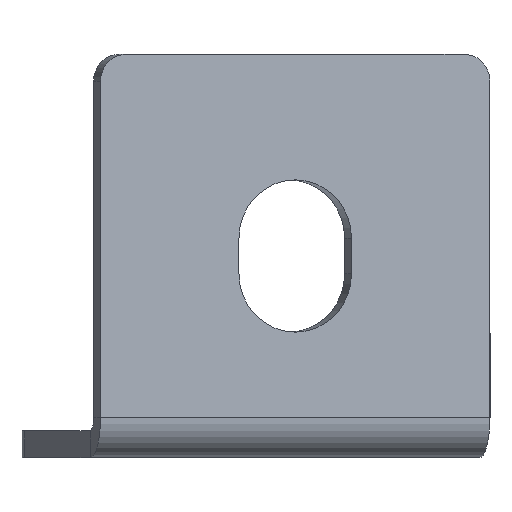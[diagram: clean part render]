
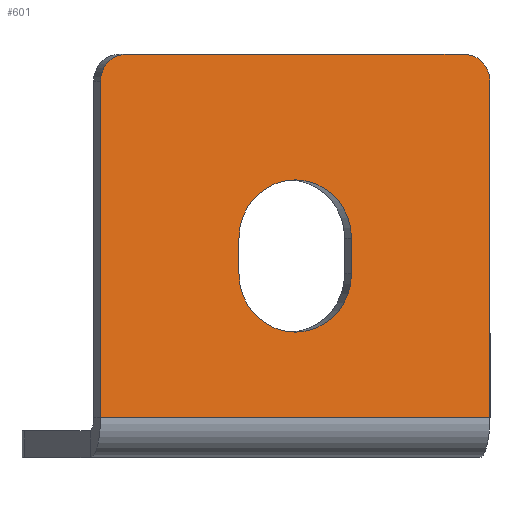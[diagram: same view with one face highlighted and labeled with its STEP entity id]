
A CAD part, left-side view. The second image highlights one B-rep face of the part: STEP entity #601.
In plain terms, the highlighted planar face has unit normal (-0.966, -0.259, 0).
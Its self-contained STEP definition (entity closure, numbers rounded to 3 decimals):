
#3 = DIRECTION ( 'NONE',  ( 0., 0., -1. ) ) ;
#35 = CARTESIAN_POINT ( 'NONE',  ( -20.43, -13.238, 45. ) ) ;
#41 = CARTESIAN_POINT ( 'NONE',  ( -20.43, -13.238, 42. ) ) ;
#76 = LINE ( 'NONE', #370, #786 ) ;
#93 = EDGE_CURVE ( 'NONE', #329, #889, #910, .T. ) ;
#118 = FACE_OUTER_BOUND ( 'NONE', #998, .T. ) ;
#119 = CARTESIAN_POINT ( 'NONE',  ( -21.206, -10.341, 45. ) ) ;
#124 = DIRECTION ( 'NONE',  ( -0.966, -0.259, 0. ) ) ;
#127 = EDGE_CURVE ( 'NONE', #213, #1108, #372, .T. ) ;
#130 = CIRCLE ( 'NONE', #1059, 3. ) ;
#142 = CARTESIAN_POINT ( 'NONE',  ( -31.3, 27.33, 42. ) ) ;
#156 = VECTOR ( 'NONE', #3, 1000. ) ;
#157 = EDGE_LOOP ( 'NONE', ( #792, #356, #636, #1159 ) ) ;
#162 = EDGE_CURVE ( 'NONE', #1108, #760, #306, .T. ) ;
#163 = LINE ( 'NONE', #1012, #868 ) ;
#166 = VERTEX_POINT ( 'NONE', #212 ) ;
#192 = EDGE_CURVE ( 'NONE', #225, #166, #1033, .T. ) ;
#195 = AXIS2_PLACEMENT_3D ( 'NONE', #850, #526, #1151 ) ;
#212 = CARTESIAN_POINT ( 'NONE',  ( -20.43, -13.238, 4.5 ) ) ;
#213 = VERTEX_POINT ( 'NONE', #931 ) ;
#225 = VERTEX_POINT ( 'NONE', #41 ) ;
#226 = ORIENTED_EDGE ( 'NONE', *, *, #192, .F. ) ;
#234 = DIRECTION ( 'NONE',  ( 0., 0., -1. ) ) ;
#237 = DIRECTION ( 'NONE',  ( 0.259, -0.966, 0. ) ) ;
#243 = CARTESIAN_POINT ( 'NONE',  ( -24.571, 2.216, 24.5 ) ) ;
#273 = AXIS2_PLACEMENT_3D ( 'NONE', #891, #124, #740 ) ;
#277 = EDGE_CURVE ( 'NONE', #410, #213, #899, .T. ) ;
#280 = VERTEX_POINT ( 'NONE', #119 ) ;
#284 = ORIENTED_EDGE ( 'NONE', *, *, #290, .F. ) ;
#290 = EDGE_CURVE ( 'NONE', #280, #225, #653, .T. ) ;
#306 = CIRCLE ( 'NONE', #994, 6.5 ) ;
#317 = CARTESIAN_POINT ( 'NONE',  ( -26.253, 8.495, 20.5 ) ) ;
#329 = VERTEX_POINT ( 'NONE', #404 ) ;
#344 = CARTESIAN_POINT ( 'NONE',  ( -27.936, 14.773, 45. ) ) ;
#356 = ORIENTED_EDGE ( 'NONE', *, *, #277, .F. ) ;
#370 = CARTESIAN_POINT ( 'NONE',  ( -32.077, 30.228, 4.5 ) ) ;
#372 = LINE ( 'NONE', #344, #566 ) ;
#391 = AXIS2_PLACEMENT_3D ( 'NONE', #479, #1103, #571 ) ;
#404 = CARTESIAN_POINT ( 'NONE',  ( -32.077, 30.228, 42. ) ) ;
#407 = DIRECTION ( 'NONE',  ( 0., 0., 1. ) ) ;
#410 = VERTEX_POINT ( 'NONE', #243 ) ;
#462 = ORIENTED_EDGE ( 'NONE', *, *, #682, .F. ) ;
#479 = CARTESIAN_POINT ( 'NONE',  ( -21.206, -10.341, 42. ) ) ;
#482 = VERTEX_POINT ( 'NONE', #596 ) ;
#489 = DIRECTION ( 'NONE',  ( -0.966, -0.259, 0. ) ) ;
#492 = VECTOR ( 'NONE', #1117, 1000. ) ;
#507 = CARTESIAN_POINT ( 'NONE',  ( -32.077, 30.228, 4.5 ) ) ;
#511 = VECTOR ( 'NONE', #234, 1000. ) ;
#526 = DIRECTION ( 'NONE',  ( -0.966, -0.259, 0. ) ) ;
#566 = VECTOR ( 'NONE', #985, 1000. ) ;
#571 = DIRECTION ( 'NONE',  ( 0.259, -0.966, 0. ) ) ;
#596 = CARTESIAN_POINT ( 'NONE',  ( -31.3, 27.33, 45. ) ) ;
#601 = ADVANCED_FACE ( 'NONE', ( #1032, #118 ), #758, .T. ) ;
#636 = ORIENTED_EDGE ( 'NONE', *, *, #1069, .F. ) ;
#653 = CIRCLE ( 'NONE', #391, 3. ) ;
#682 = EDGE_CURVE ( 'NONE', #166, #889, #76, .T. ) ;
#719 = EDGE_CURVE ( 'NONE', #280, #482, #987, .T. ) ;
#740 = DIRECTION ( 'NONE',  ( 0.259, -0.966, 0. ) ) ;
#753 = DIRECTION ( 'NONE',  ( 0.966, 0.259, 0. ) ) ;
#758 = PLANE ( 'NONE',  #195 ) ;
#760 = VERTEX_POINT ( 'NONE', #1021 ) ;
#786 = VECTOR ( 'NONE', #975, 1000. ) ;
#790 = ORIENTED_EDGE ( 'NONE', *, *, #719, .T. ) ;
#792 = ORIENTED_EDGE ( 'NONE', *, *, #127, .F. ) ;
#850 = CARTESIAN_POINT ( 'NONE',  ( -32.077, 30.228, 45. ) ) ;
#864 = ORIENTED_EDGE ( 'NONE', *, *, #93, .T. ) ;
#868 = VECTOR ( 'NONE', #407, 1000. ) ;
#889 = VERTEX_POINT ( 'NONE', #507 ) ;
#891 = CARTESIAN_POINT ( 'NONE',  ( -26.253, 8.495, 24.5 ) ) ;
#899 = CIRCLE ( 'NONE', #273, 6.5 ) ;
#910 = LINE ( 'NONE', #1039, #156 ) ;
#916 = CARTESIAN_POINT ( 'NONE',  ( -32.077, 30.228, 45. ) ) ;
#931 = CARTESIAN_POINT ( 'NONE',  ( -27.936, 14.773, 24.5 ) ) ;
#975 = DIRECTION ( 'NONE',  ( -0.259, 0.966, 0. ) ) ;
#985 = DIRECTION ( 'NONE',  ( 0., 0., -1. ) ) ;
#987 = LINE ( 'NONE', #916, #492 ) ;
#994 = AXIS2_PLACEMENT_3D ( 'NONE', #317, #489, #1112 ) ;
#998 = EDGE_LOOP ( 'NONE', ( #226, #284, #790, #1004, #864, #462 ) ) ;
#1004 = ORIENTED_EDGE ( 'NONE', *, *, #1101, .F. ) ;
#1012 = CARTESIAN_POINT ( 'NONE',  ( -24.571, 2.216, 45. ) ) ;
#1021 = CARTESIAN_POINT ( 'NONE',  ( -24.571, 2.216, 20.5 ) ) ;
#1032 = FACE_BOUND ( 'NONE', #157, .T. ) ;
#1033 = LINE ( 'NONE', #35, #511 ) ;
#1039 = CARTESIAN_POINT ( 'NONE',  ( -32.077, 30.228, 45. ) ) ;
#1059 = AXIS2_PLACEMENT_3D ( 'NONE', #142, #753, #237 ) ;
#1069 = EDGE_CURVE ( 'NONE', #760, #410, #163, .T. ) ;
#1101 = EDGE_CURVE ( 'NONE', #329, #482, #130, .T. ) ;
#1103 = DIRECTION ( 'NONE',  ( 0.966, 0.259, 0. ) ) ;
#1108 = VERTEX_POINT ( 'NONE', #1115 ) ;
#1112 = DIRECTION ( 'NONE',  ( 0.259, -0.966, 0. ) ) ;
#1115 = CARTESIAN_POINT ( 'NONE',  ( -27.936, 14.773, 20.5 ) ) ;
#1117 = DIRECTION ( 'NONE',  ( -0.259, 0.966, 0. ) ) ;
#1151 = DIRECTION ( 'NONE',  ( 0.259, -0.966, 0. ) ) ;
#1159 = ORIENTED_EDGE ( 'NONE', *, *, #162, .F. ) ;
